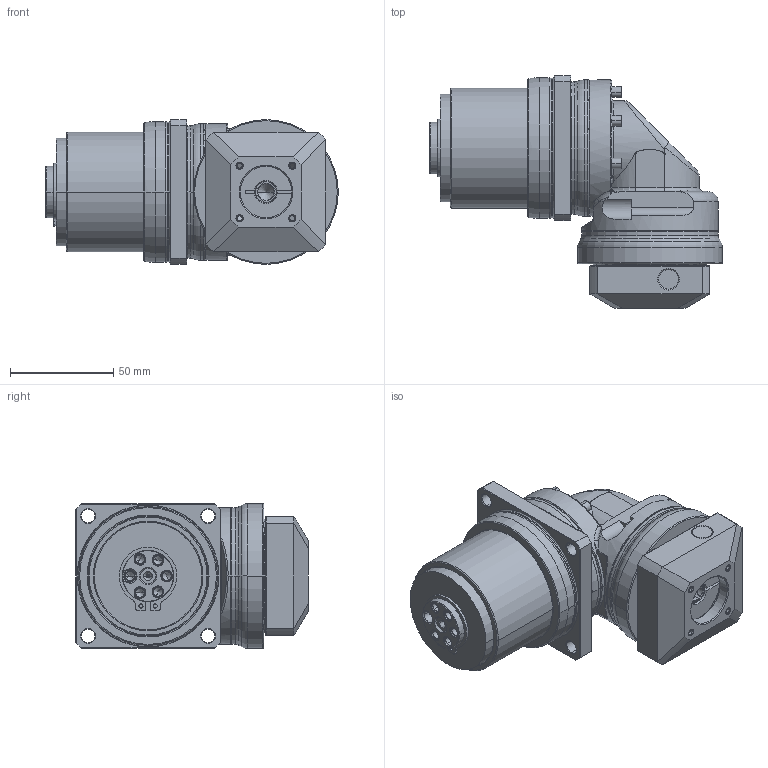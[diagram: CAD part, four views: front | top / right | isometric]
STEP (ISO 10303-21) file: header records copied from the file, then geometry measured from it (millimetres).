
FILE_DESCRIPTION((''),'2;1');
FILE_NAME('PLR070_1ST_8-P0411100101_ASM','2016-06-13T',('d00435'),(''),'PRO/ENGINEER BY PARAMETRIC TECHNOLOGY CORPORATION, 2008410','PRO/ENGINEER BY PARAMETRIC TECHNOLOGY CORPORATION, 2008410','');
FILE_SCHEMA(('CONFIG_CONTROL_DESIGN'));
Length unit declared in the file: millimetre
Products named in the file (10): P0272200001; P1353200001; P0366200001; 22802000015; P1017210001; P1350200001; P0411100101; P0503100005; P0713200001; PLR070_1ST_8-P0411100101_ASM
Assembly tree (9 placements, depth 2):
  PLR070_1ST_8-P0411100101_ASM
    P0272200001
    P1353200001
    P0366200001
    22802000015
    P1017210001
    P1350200001
    P0411100101
    P0503100005
    P0713200001
Bounding box: 141.5 x 112.5 x 70 mm (x, y, z)
Volume: 446449.7 mm3; surface area: 110506.4 mm2
Topology: 9 solids, 24 shells, 583 faces, 1363 edges, 824 vertices
Faces by surface type: cylinder 201, cone 152, plane 126, torus 74, bspline 30
Entity records: 19751 total; most frequent: CARTESIAN_POINT 6234, DIRECTION 2980, ORIENTED_EDGE 2610, EDGE_CURVE 1335, AXIS2_PLACEMENT_3D 1259, VERTEX_POINT 824, CIRCLE 679, EDGE_LOOP 667
